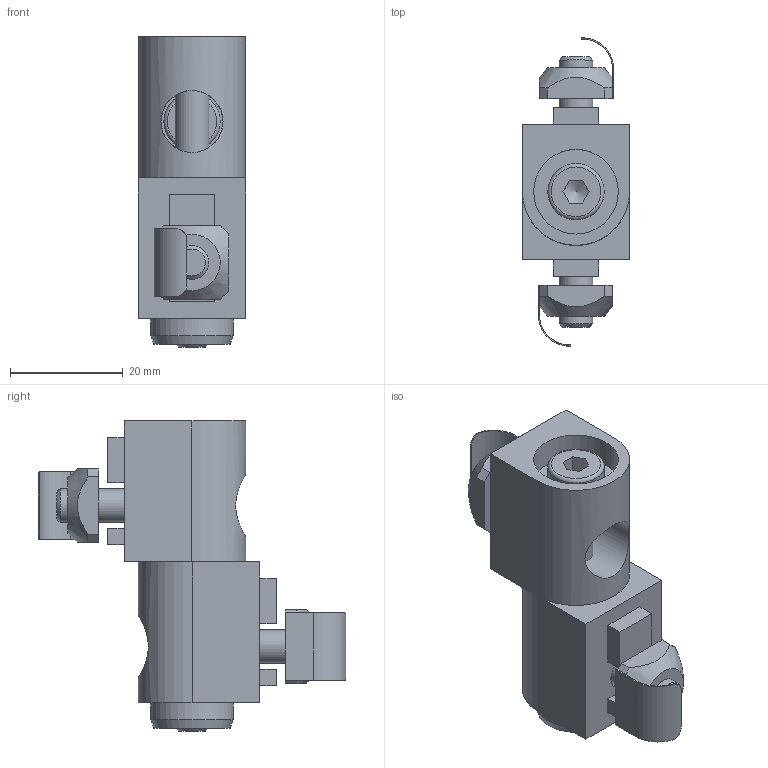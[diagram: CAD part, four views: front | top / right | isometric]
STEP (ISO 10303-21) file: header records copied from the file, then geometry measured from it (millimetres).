
FILE_DESCRIPTION((''),'2;1');
FILE_NAME('C:\Documents and Settings\Administrator\My Documents\Andys Backup Data\ANDY''S INVENTOR\INVENTOR LIBRARIES\MINITEC INVENTOR LIBRARIES\FASTENING ELEMENTS\A PACKED FILES\STEP FILES\21.1403 GUARD UNIT WITH ADJUSTABLE FIXING ANGLE.stp','2010-06-24T08:52:14',('Administrator'),(''),'Autodesk Inventor 2009','Autodesk Inventor 2009','');
FILE_SCHEMA(('CONFIG_CONTROL_DESIGN'));
Length unit declared in the file: millimetre
Products named in the file (6): 21.1403 GUARD UNIT WITH ADJUSTABLE FIXING ANGLE; 21.1171 M6X50; HEX NUT M6 DIN 934; 21.1238  M6 x 16; 21.1330_2 M6 SQUARE NUT POS FXG
Assembly tree (8 placements, depth 2):
  21.1403 GUARD UNIT WITH ADJUSTABLE FIXING ANGLE
    21.1403 GUARD UNIT WITH ADJUSTABLE FIXING ANGLE  x2
    21.1171 M6X50
    HEX NUT M6 DIN 934
    21.1238  M6 x 16  x2
    21.1330_2 M6 SQUARE NUT POS FXG  x2
Bounding box: 19 x 54.61 x 55 mm (x, y, z)
Volume: 18578.8 mm3; surface area: 12448.2 mm2
Topology: 8 solids, 8 shells, 161 faces, 390 edges, 258 vertices
Faces by surface type: plane 113, cylinder 30, cone 14, torus 3, bspline 1
Full cylindrical faces by diameter (mm): 6 x9, 6.5 x2, 10 x3, 11 x2, 14.6 x2, 15 x2
Entity records: 2970 total; most frequent: CARTESIAN_POINT 776, DIRECTION 402, ORIENTED_EDGE 382, EDGE_CURVE 191, AXIS2_PLACEMENT_3D 144, VERTEX_POINT 139, EDGE_LOOP 136, VECTOR 114
